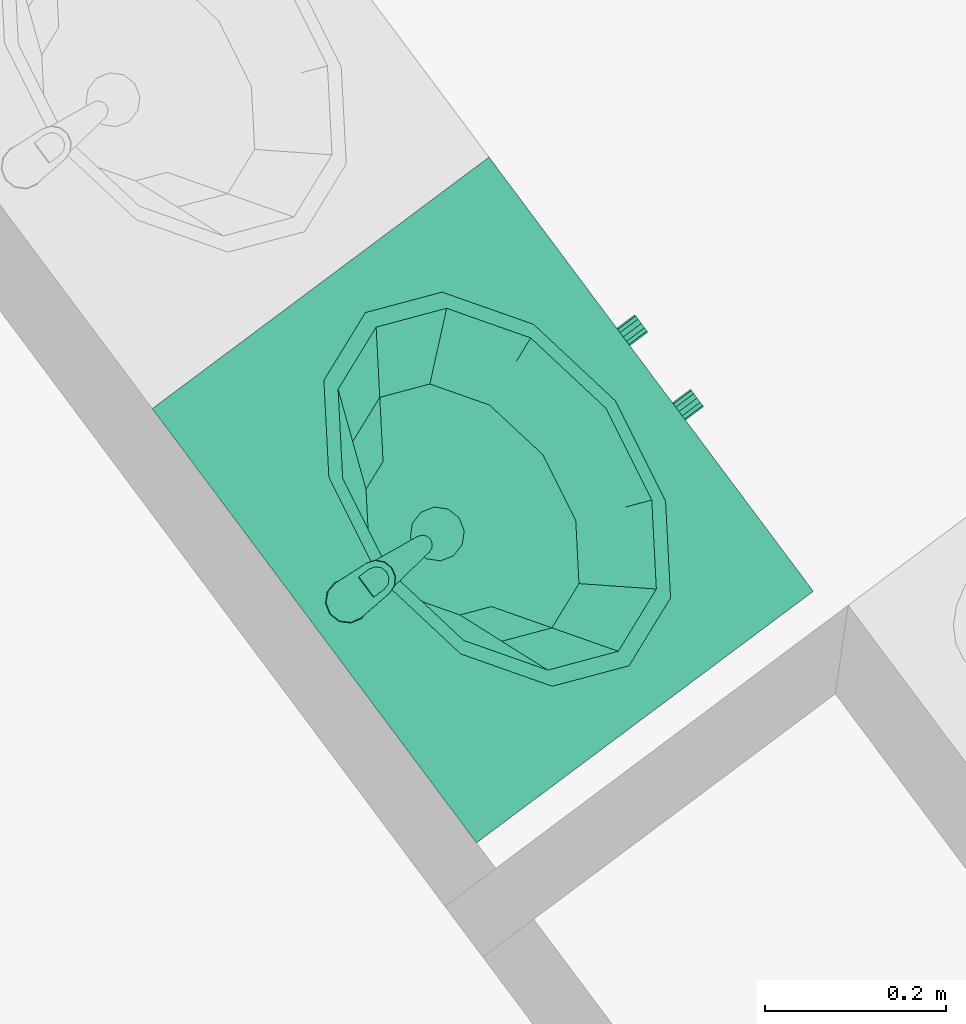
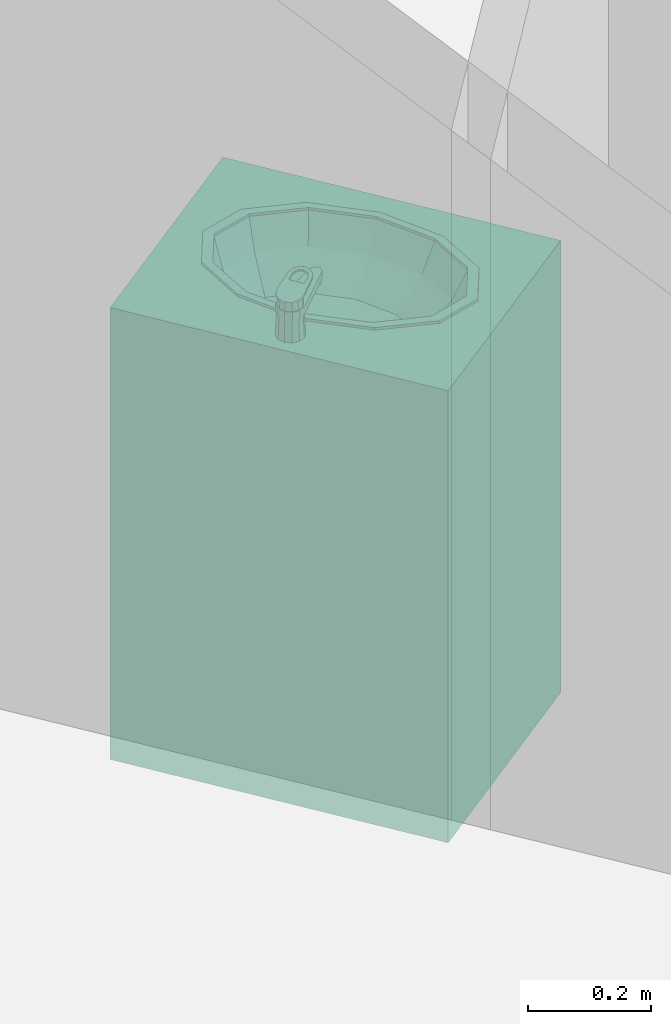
# One storey, part 85 of 121: 1 distribution element.
"""IFC2X3 building model written with IfcOpenShell, lengths in metres."""

from ifc_helpers import new_model, entity, si_unit, converted_unit, derived_unit, money_unit, direction, frame, origin_with_axes, place, context, subcontext, project, spatial, open_shell, faceted_brep, surface_model, source, transform, mapped, type_object, element, save


model = new_model("IFC2X3")

# Units and contexts
model_context = context("Model", 3, precision=1e-05, world=origin_with_axes(), true_north=direction((0.0, 1.0)))
body_context = subcontext(model_context, "Body", "Model", "MODEL_VIEW")
ifc_project = project(units=[si_unit("LENGTHUNIT", "METRE"), si_unit("AREAUNIT", "SQUARE_METRE"), si_unit("VOLUMEUNIT", "CUBIC_METRE"), converted_unit("PLANEANGLEUNIT", "DEGREE", entity("IfcPlaneAngleMeasure", 0.0174532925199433), si_unit("PLANEANGLEUNIT", "RADIAN"), dimensions=[0, 0, 0, 0, 0, 0, 0]), money_unit("CHF"), converted_unit("TIMEUNIT", "Year", entity("IfcTimeMeasure", 31557600.0), si_unit("TIMEUNIT", "SECOND"), dimensions=[0, 0, 1, 0, 0, 0, 0]), si_unit("MASSUNIT", "GRAM", prefix="KILO"), si_unit("THERMODYNAMICTEMPERATUREUNIT", "DEGREE_CELSIUS"), si_unit("LUMINOUSINTENSITYUNIT", "LUMEN"), si_unit("ENERGYUNIT", "JOULE", prefix="MEGA"), derived_unit("THERMALCONDUCTANCEUNIT", [(si_unit("POWERUNIT", "WATT"), 1), (si_unit("LENGTHUNIT", "METRE"), -1), (si_unit("THERMODYNAMICTEMPERATUREUNIT", "KELVIN"), -1)]), derived_unit("SPECIFICHEATCAPACITYUNIT", [(si_unit("ENERGYUNIT", "JOULE"), 1), (si_unit("MASSUNIT", "GRAM", prefix="KILO"), -1), (si_unit("THERMODYNAMICTEMPERATUREUNIT", "KELVIN"), -1)]), derived_unit("MASSDENSITYUNIT", [(si_unit("MASSUNIT", "GRAM", prefix="KILO"), 1), (si_unit("VOLUMEUNIT", "CUBIC_METRE"), -1)])], contexts=[model_context])

# Site, building, storey
site_placement = place(None, origin_with_axes())
site = spatial("IfcSite", under=ifc_project, at=site_placement, Name="Site", CompositionType="ELEMENT")
building_placement = place(site_placement, origin_with_axes())
building = spatial("IfcBuilding", under=site, at=building_placement, Name="Bâtiment", CompositionType="ELEMENT")
storey_placement = place(building_placement, frame((0.0, 0.0, 2.75), z_axis=(0.0, 0.0, 1.0), x_axis=(1.0, 0.0, 0.0)))
storey = spatial("IfcBuildingStorey", under=building, at=storey_placement, Name="Etage 1", CompositionType="ELEMENT", Elevation=2.75)

# Distribution element
distribution_element_type = type_object("IfcDistributionElementType", Name="Lavabo sur meuble 27")
shared_shape = source(origin_with_axes(), body_context, "Body", "SurfaceModel", [
    faceted_brep([(0.0, 0.0, 0.0), (0.0, 0.0, 0.1), (-0.6, 0.0, 0.1), (-0.6, 0.0, 0.0), (0.0, 0.4653441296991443, 0.0), (0.0, 0.4653441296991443, 0.1), (-0.6, 0.4653441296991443, 0.1), (-0.6, 0.4653441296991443, 0.0)], [[[0, 1, 2, 3]], [[4, 5, 1, 0]], [[1, 5, 6, 2]], [[3, 2, 6, 7]], [[0, 3, 7, 4]], [[7, 6, 5, 4]]]),
    faceted_brep([(0.0, 0.0, 0.1), (0.0, 0.0, 0.12), (-0.02, 0.0, 0.12), (-0.02, 0.0, 0.1), (0.0, 0.4653441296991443, 0.1), (0.0, 0.4653441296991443, 0.12), (-0.02, 0.4653441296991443, 0.12), (-0.58, 0.4653441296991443, 0.12), (-0.6, 0.4653441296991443, 0.12), (-0.6, 0.0, 0.12), (-0.58, 0.0, 0.12), (-0.58, 0.0, 0.1), (-0.6, 0.0, 0.1), (-0.6, 0.4653441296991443, 0.1), (-0.58, 0.4653441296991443, 0.1), (-0.02, 0.4653441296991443, 0.1)], [[[0, 1, 2, 3]], [[4, 5, 1, 0]], [[1, 5, 6, 7, 8, 9, 10, 2]], [[3, 2, 10, 11]], [[0, 3, 11, 12, 13, 14, 15, 4]], [[15, 6, 5, 4]], [[14, 7, 6, 15]], [[13, 8, 7, 14]], [[12, 9, 8, 13]], [[11, 10, 9, 12]]]),
    faceted_brep([(0.0, 0.0, 0.12), (0.0, 0.0, 0.85), (-0.02, 0.0, 0.85), (-0.02, 0.0, 0.12), (0.0, 0.4653441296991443, 0.12), (0.0, 0.4653441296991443, 0.85), (-0.6, 0.4653441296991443, 0.85), (-0.6, 0.0, 0.85), (-0.58, 0.0, 0.85), (-0.58, 0.4453441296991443, 0.85), (-0.02, 0.4453441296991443, 0.85), (-0.02, 0.4453441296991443, 0.12), (-0.58, 0.4453441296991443, 0.12), (-0.58, 0.0, 0.12), (-0.6, 0.0, 0.12), (-0.6, 0.4653441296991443, 0.12)], [[[0, 1, 2, 3]], [[4, 5, 1, 0]], [[1, 5, 6, 7, 8, 9, 10, 2]], [[3, 2, 10, 11]], [[0, 3, 11, 12, 13, 14, 15, 4]], [[15, 6, 5, 4]], [[14, 7, 6, 15]], [[13, 8, 7, 14]], [[12, 9, 8, 13]], [[11, 10, 9, 12]]]),
    faceted_brep([(-0.58, 0.0, 0.3233333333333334), (-0.58, 0.0, 0.3433333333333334), (-0.58, 0.4453441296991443, 0.3433333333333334), (-0.58, 0.4453441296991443, 0.3233333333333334), (-0.02, 0.0, 0.3233333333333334), (-0.02, 0.0, 0.3433333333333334), (-0.02, 0.4453441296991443, 0.3433333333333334), (-0.02, 0.4453441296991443, 0.3233333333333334)], [[[0, 1, 2, 3]], [[4, 5, 1, 0]], [[1, 5, 6, 2]], [[3, 2, 6, 7]], [[0, 3, 7, 4]], [[7, 6, 5, 4]]]),
    faceted_brep([(-0.58, 0.0, 0.5666666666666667), (-0.58, 0.0, 0.5866666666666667), (-0.58, 0.4453441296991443, 0.5866666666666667), (-0.58, 0.4453441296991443, 0.5666666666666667), (-0.02, 0.0, 0.5666666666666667), (-0.02, 0.0, 0.5866666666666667), (-0.02, 0.4453441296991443, 0.5866666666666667), (-0.02, 0.4453441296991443, 0.5666666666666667)], [[[0, 1, 2, 3]], [[4, 5, 1, 0]], [[1, 5, 6, 2]], [[3, 2, 6, 7]], [[0, 3, 7, 4]], [[7, 6, 5, 4]]]),
    faceted_brep([(0.0, 0.4653441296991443, 0.85), (0.0, 0.0, 0.85), (-0.6, 0.0, 0.85), (-0.6, 0.4653441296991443, 0.85), (-0.4124999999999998, 0.08276825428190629, 0.85), (-0.3, 0.06267206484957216, 0.85), (-0.1874999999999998, 0.08276825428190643, 0.85), (-0.1051442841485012, 0.1376720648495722, 0.85), (-0.07499999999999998, 0.2126720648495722, 0.85), (-0.1051442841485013, 0.2876720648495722, 0.85), (-0.1875000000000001, 0.342575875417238, 0.85), (-0.3, 0.3626720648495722, 0.85), (-0.4125, 0.3425758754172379, 0.85), (-0.4948557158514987, 0.2876720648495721, 0.85), (-0.525, 0.2126720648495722, 0.85), (-0.4948557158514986, 0.137672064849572, 0.85), (0.0, 0.4653441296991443, 0.9), (0.0, 0.0, 0.9), (-0.6, 0.0, 0.9), (-0.6, 0.4653441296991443, 0.9), (-0.3, 0.06267206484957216, 0.9), (-0.4124999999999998, 0.08276825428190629, 0.9), (-0.1874999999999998, 0.08276825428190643, 0.9), (-0.1051442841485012, 0.1376720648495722, 0.9), (-0.07499999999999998, 0.2126720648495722, 0.9), (-0.1051442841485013, 0.2876720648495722, 0.9), (-0.1875000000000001, 0.342575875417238, 0.9), (-0.3, 0.3626720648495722, 0.9), (-0.4125, 0.3425758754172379, 0.9), (-0.4948557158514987, 0.2876720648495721, 0.9), (-0.525, 0.2126720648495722, 0.9), (-0.4948557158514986, 0.137672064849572, 0.9)], [[[0, 1, 2, 3], [4, 5, 6, 7, 8, 9, 10, 11, 12, 13, 14, 15]], [[1, 0, 16, 17]], [[2, 1, 17, 18]], [[3, 2, 18, 19]], [[0, 3, 19, 16]], [[20, 5, 4, 21]], [[22, 6, 5, 20]], [[23, 7, 6, 22]], [[24, 8, 7, 23]], [[25, 9, 8, 24]], [[26, 10, 9, 25]], [[27, 11, 10, 26]], [[28, 12, 11, 27]], [[29, 13, 12, 28]], [[30, 14, 13, 29]], [[31, 15, 14, 30]], [[21, 4, 15, 31]], [[18, 17, 16, 19], [28, 27, 26, 25, 24, 23, 22, 20, 21, 31, 30, 29]]]),
    faceted_brep([(-0.544, 0.2126720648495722, 0.905), (-0.511310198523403, 0.2943684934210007, 0.905), (-0.511310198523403, 0.2943684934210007, 0.9), (-0.544, 0.2126720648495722, 0.9), (-0.5113101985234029, 0.1309756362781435, 0.905), (-0.4219999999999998, 0.07116969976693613, 0.905), (-0.3, 0.04927920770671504, 0.905), (-0.1779999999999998, 0.07116969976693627, 0.905), (-0.08868980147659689, 0.1309756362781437, 0.905), (-0.05599999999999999, 0.2126720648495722, 0.905), (-0.088689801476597, 0.2943684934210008, 0.905), (-0.178, 0.3541744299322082, 0.905), (-0.3, 0.3760649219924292, 0.905), (-0.422, 0.3541744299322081, 0.905), (-0.524, 0.2126720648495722, 0.905), (-0.4939896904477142, 0.2876720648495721, 0.905), (-0.412, 0.3425758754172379, 0.905), (-0.3, 0.3626720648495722, 0.905), (-0.1880000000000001, 0.342575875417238, 0.905), (-0.1060103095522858, 0.2876720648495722, 0.905), (-0.07599999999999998, 0.2126720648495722, 0.905), (-0.1060103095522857, 0.1376720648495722, 0.905), (-0.1879999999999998, 0.08276825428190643, 0.905), (-0.3, 0.06267206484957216, 0.905), (-0.4119999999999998, 0.08276825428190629, 0.905), (-0.4939896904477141, 0.137672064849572, 0.905), (-0.422, 0.3541744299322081, 0.9), (-0.3, 0.3760649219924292, 0.9), (-0.178, 0.3541744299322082, 0.9), (-0.088689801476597, 0.2943684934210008, 0.9), (-0.05599999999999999, 0.2126720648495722, 0.9), (-0.08868980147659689, 0.1309756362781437, 0.9), (-0.1779999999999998, 0.07116969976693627, 0.9), (-0.3, 0.04927920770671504, 0.9), (-0.4219999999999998, 0.07116969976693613, 0.9), (-0.5113101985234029, 0.1309756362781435, 0.9), (-0.524, 0.2126720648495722, 0.9), (-0.4939896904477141, 0.137672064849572, 0.9), (-0.4119999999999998, 0.08276825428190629, 0.9), (-0.3, 0.06267206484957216, 0.9), (-0.1879999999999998, 0.08276825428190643, 0.9), (-0.1060103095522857, 0.1376720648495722, 0.9), (-0.07599999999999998, 0.2126720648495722, 0.9), (-0.1060103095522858, 0.2876720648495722, 0.9), (-0.1880000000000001, 0.342575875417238, 0.9), (-0.3, 0.3626720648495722, 0.9), (-0.412, 0.3425758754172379, 0.9), (-0.4939896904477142, 0.2876720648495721, 0.9)], [[[0, 1, 2, 3]], [[0, 4, 5, 6, 7, 8, 9, 10, 11, 12, 13, 1], [14, 15, 16, 17, 18, 19, 20, 21, 22, 23, 24, 25]], [[1, 13, 26, 2]], [[3, 2, 26, 27, 28, 29, 30, 31, 32, 33, 34, 35], [36, 37, 38, 39, 40, 41, 42, 43, 44, 45, 46, 47]], [[4, 0, 3, 35]], [[5, 4, 35, 34]], [[6, 5, 34, 33]], [[7, 6, 33, 32]], [[8, 7, 32, 31]], [[9, 8, 31, 30]], [[10, 9, 30, 29]], [[11, 10, 29, 28]], [[12, 11, 28, 27]], [[13, 12, 27, 26]], [[15, 14, 36, 47]], [[16, 15, 47, 46]], [[17, 16, 46, 45]], [[18, 17, 45, 44]], [[19, 18, 44, 43]], [[20, 19, 43, 42]], [[21, 20, 42, 41]], [[22, 21, 41, 40]], [[23, 22, 40, 39]], [[24, 23, 39, 38]], [[25, 24, 38, 37]], [[14, 25, 37, 36]]]),
    surface_model("IfcShellBasedSurfaceModel", [(-0.3, 0.3626720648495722, 0.9), (-0.412, 0.342575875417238, 0.9), (-0.4008, 0.3445854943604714, 0.848), (-0.3, 0.3626720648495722, 0.848), (-0.4939896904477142, 0.2876720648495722, 0.9), (-0.4745907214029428, 0.2951720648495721, 0.848), (-0.1879999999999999, 0.3425758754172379, 0.9), (-0.1991999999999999, 0.3445854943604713, 0.848), (-0.524, 0.2126720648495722, 0.9), (-0.5016, 0.2276720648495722, 0.848), (-0.1060103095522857, 0.2876720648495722, 0.9), (-0.1254092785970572, 0.2951720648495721, 0.848), (-0.4939896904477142, 0.1376720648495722, 0.9), (-0.4745907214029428, 0.1601720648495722, 0.848), (-0.07599999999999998, 0.2126720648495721, 0.9), (-0.09839999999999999, 0.2276720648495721, 0.848), (-0.412, 0.08276825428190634, 0.9), (-0.4008, 0.1107586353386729, 0.848), (-0.1060103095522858, 0.1376720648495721, 0.9), (-0.1254092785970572, 0.1601720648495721, 0.848), (-0.3, 0.06267206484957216, 0.9), (-0.3, 0.09267206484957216, 0.848), (-0.1879999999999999, 0.08276825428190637, 0.9), (-0.1992, 0.110758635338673, 0.848)], [open_shell([[[0, 1, 2, 3]], [[1, 4, 5, 2]], [[6, 0, 3, 7]], [[4, 8, 9, 5]], [[10, 6, 7, 11]], [[8, 12, 13, 9]], [[14, 10, 11, 15]], [[12, 16, 17, 13]], [[18, 14, 15, 19]], [[16, 20, 21, 17]], [[22, 18, 19, 23]], [[20, 22, 23, 21]]])]),
    surface_model("IfcShellBasedSurfaceModel", [(-0.3, 0.3626720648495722, 0.848), (-0.4008, 0.3445854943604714, 0.848), (-0.379632, 0.3483836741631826, 0.7959999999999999), (-0.3, 0.3626720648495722, 0.7959999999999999), (-0.4745907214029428, 0.2951720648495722, 0.848), (-0.4379266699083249, 0.3093470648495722, 0.7959999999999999), (-0.1991999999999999, 0.3445854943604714, 0.848), (-0.2203679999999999, 0.3483836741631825, 0.7959999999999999), (-0.5016, 0.2276720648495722, 0.848), (-0.459264, 0.2560220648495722, 0.7959999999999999), (-0.1254092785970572, 0.2951720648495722, 0.848), (-0.1620733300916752, 0.3093470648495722, 0.7959999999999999), (-0.4745907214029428, 0.1601720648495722, 0.848), (-0.4379266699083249, 0.2026970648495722, 0.7959999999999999), (-0.09839999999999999, 0.2276720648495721, 0.848), (-0.140736, 0.2560220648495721, 0.7959999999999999), (-0.4008, 0.1107586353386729, 0.848), (-0.379632, 0.1636604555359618, 0.7959999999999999), (-0.1254092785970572, 0.1601720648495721, 0.848), (-0.1620733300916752, 0.2026970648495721, 0.7959999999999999), (-0.3, 0.09267206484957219, 0.848), (-0.3, 0.1493720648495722, 0.7959999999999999), (-0.1992, 0.110758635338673, 0.848), (-0.220368, 0.1636604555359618, 0.7959999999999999)], [open_shell([[[0, 1, 2, 3]], [[1, 4, 5, 2]], [[6, 0, 3, 7]], [[4, 8, 9, 5]], [[10, 6, 7, 11]], [[8, 12, 13, 9]], [[14, 10, 11, 15]], [[12, 16, 17, 13]], [[18, 14, 15, 19]], [[16, 20, 21, 17]], [[22, 18, 19, 23]], [[20, 22, 23, 21]]])]),
    surface_model("IfcShellBasedSurfaceModel", [(-0.3, 0.3626720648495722, 0.7959999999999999), (-0.379632, 0.3483836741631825, 0.7959999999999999), (-0.35016816, 0.3536703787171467, 0.7699999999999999), (-0.3, 0.3626720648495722, 0.7699999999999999), (-0.4379266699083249, 0.3093470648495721, 0.7959999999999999), (-0.3868938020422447, 0.3290773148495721, 0.7699999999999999), (-0.2203679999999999, 0.3483836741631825, 0.7959999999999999), (-0.2498318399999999, 0.3536703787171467, 0.7699999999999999), (-0.459264, 0.2560220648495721, 0.7959999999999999), (-0.40033632, 0.2954825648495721, 0.7699999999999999), (-0.1620733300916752, 0.3093470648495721, 0.7959999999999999), (-0.2131061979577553, 0.3290773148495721, 0.7699999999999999), (-0.4379266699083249, 0.2026970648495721, 0.7959999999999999), (-0.3868938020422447, 0.2618878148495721, 0.7699999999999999), (-0.140736, 0.2560220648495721, 0.7959999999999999), (-0.19966368, 0.2954825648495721, 0.7699999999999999), (-0.379632, 0.1636604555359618, 0.7959999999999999), (-0.35016816, 0.2372947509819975, 0.7699999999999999), (-0.1620733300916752, 0.2026970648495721, 0.7959999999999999), (-0.2131061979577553, 0.2618878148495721, 0.7699999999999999), (-0.3, 0.1493720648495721, 0.7959999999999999), (-0.3, 0.2282930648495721, 0.7699999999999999), (-0.220368, 0.1636604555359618, 0.7959999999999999), (-0.24983184, 0.2372947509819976, 0.7699999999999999)], [open_shell([[[0, 1, 2, 3]], [[1, 4, 5, 2]], [[6, 0, 3, 7]], [[4, 8, 9, 5]], [[10, 6, 7, 11]], [[8, 12, 13, 9]], [[14, 10, 11, 15]], [[12, 16, 17, 13]], [[18, 14, 15, 19]], [[16, 20, 21, 17]], [[22, 18, 19, 23]], [[20, 22, 23, 21]]])]),
    surface_model("IfcShellBasedSurfaceModel", [(-0.3, 0.3626720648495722, 0.7699999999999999), (-0.35016816, 0.3536703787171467, 0.7699999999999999), (-0.315, 0.3214633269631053, 0.7629999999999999), (-0.3259807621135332, 0.3104825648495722, 0.7629999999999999), (-0.3, 0.3254825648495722, 0.7629999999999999), (-0.3868938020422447, 0.3290773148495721, 0.7699999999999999), (-0.2498318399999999, 0.3536703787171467, 0.7699999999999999), (-0.33, 0.2954825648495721, 0.7629999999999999), (-0.285, 0.3214633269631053, 0.7629999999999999), (-0.40033632, 0.2954825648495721, 0.7699999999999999), (-0.2131061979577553, 0.3290773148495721, 0.7699999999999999), (-0.3259807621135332, 0.2804825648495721, 0.7629999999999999), (-0.2740192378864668, 0.3104825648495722, 0.7629999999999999), (-0.3868938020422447, 0.2618878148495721, 0.7699999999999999), (-0.19966368, 0.2954825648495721, 0.7699999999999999), (-0.315, 0.269501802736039, 0.7629999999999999), (-0.27, 0.2954825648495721, 0.7629999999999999), (-0.35016816, 0.2372947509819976, 0.7699999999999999), (-0.2131061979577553, 0.2618878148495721, 0.7699999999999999), (-0.3, 0.2654825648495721, 0.7629999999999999), (-0.2740192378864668, 0.2804825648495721, 0.7629999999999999), (-0.3, 0.2282930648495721, 0.7699999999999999), (-0.24983184, 0.2372947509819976, 0.7699999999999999), (-0.285, 0.269501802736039, 0.7629999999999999)], [open_shell([[[0, 1, 2]], [[1, 3, 2]], [[0, 2, 4]], [[1, 5, 3]], [[6, 0, 4]], [[5, 7, 3]], [[6, 4, 8]], [[5, 9, 7]], [[10, 6, 8]], [[9, 11, 7]], [[10, 8, 12]], [[9, 13, 11]], [[14, 10, 12]], [[13, 15, 11]], [[14, 12, 16]], [[13, 17, 15]], [[18, 14, 16]], [[17, 19, 15]], [[18, 16, 20]], [[17, 21, 19]], [[22, 18, 20]], [[21, 23, 19]], [[22, 20, 23]], [[21, 22, 23]]])]),
    surface_model("IfcShellBasedSurfaceModel", [(-0.33, 0.2954825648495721, 0.763), (-0.3259807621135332, 0.3104825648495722, 0.763), (-0.3259807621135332, 0.3104825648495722, 0.758), (-0.33, 0.2954825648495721, 0.758), (-0.315, 0.3214633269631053, 0.763), (-0.315, 0.3214633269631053, 0.758), (-0.3, 0.3254825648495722, 0.758), (-0.285, 0.3214633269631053, 0.758), (-0.2740192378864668, 0.3104825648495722, 0.758), (-0.27, 0.2954825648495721, 0.758), (-0.2740192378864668, 0.2804825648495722, 0.758), (-0.285, 0.269501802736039, 0.758), (-0.3, 0.2654825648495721, 0.758), (-0.3149999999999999, 0.269501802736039, 0.758), (-0.3259807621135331, 0.2804825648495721, 0.758), (-0.3259807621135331, 0.2804825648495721, 0.763), (-0.3, 0.3254825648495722, 0.763), (-0.285, 0.3214633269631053, 0.763), (-0.2740192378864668, 0.3104825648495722, 0.763), (-0.27, 0.2954825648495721, 0.763), (-0.2740192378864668, 0.2804825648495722, 0.763), (-0.285, 0.269501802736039, 0.763), (-0.3, 0.2654825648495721, 0.763), (-0.3149999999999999, 0.269501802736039, 0.763)], [open_shell([[[0, 1, 2, 3]], [[1, 4, 5, 2]], [[3, 2, 5, 6, 7, 8, 9, 10, 11, 12, 13, 14]], [[15, 0, 3, 14]], [[4, 16, 6, 5]], [[16, 17, 7, 6]], [[17, 18, 8, 7]], [[18, 19, 9, 8]], [[19, 20, 10, 9]], [[20, 21, 11, 10]], [[21, 22, 12, 11]], [[22, 23, 13, 12]], [[23, 15, 14, 13]]])]),
    faceted_brep([(-0.3125, 0.4406587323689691, 0.9), (-0.310587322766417, 0.4373458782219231, 0.976507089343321), (-0.3, 0.4402100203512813, 0.9759615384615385), (-0.3, 0.4440080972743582, 0.9), (-0.3216506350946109, 0.4315080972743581, 0.9), (-0.3182735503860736, 0.4295583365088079, 0.9779904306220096), (-0.321, 0.4190080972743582, 0.98), (-0.3181003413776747, 0.4085578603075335, 0.9819905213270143), (-0.3104141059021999, 0.400970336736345, 0.9834357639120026), (-0.3, 0.3982062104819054, 0.9839622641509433), (-0.2895858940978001, 0.400970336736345, 0.9834357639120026), (-0.2818996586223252, 0.4085578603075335, 0.9819905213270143), (-0.279, 0.4190080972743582, 0.98), (-0.2817264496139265, 0.4295583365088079, 0.9779904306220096), (-0.289412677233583, 0.4373458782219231, 0.976507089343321), (-0.2875, 0.4406587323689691, 0.9), (-0.278349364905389, 0.4315080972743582, 0.9), (-0.275, 0.4190080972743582, 0.9), (-0.278349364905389, 0.4065080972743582, 0.9), (-0.2875, 0.3973574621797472, 0.9), (-0.3, 0.3940080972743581, 0.9), (-0.3125, 0.3973574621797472, 0.9), (-0.3216506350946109, 0.4065080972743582, 0.9), (-0.325, 0.4190080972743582, 0.9)], [[[0, 1, 2, 3]], [[4, 5, 1, 0]], [[1, 5, 6, 7, 8, 9, 10, 11, 12, 13, 14, 2]], [[3, 2, 14, 15]], [[0, 3, 15, 16, 17, 18, 19, 20, 21, 22, 23, 4]], [[23, 6, 5, 4]], [[22, 7, 6, 23]], [[21, 8, 7, 22]], [[20, 9, 8, 21]], [[19, 10, 9, 20]], [[18, 11, 10, 19]], [[17, 12, 11, 18]], [[16, 13, 12, 17]], [[15, 14, 13, 16]]]),
    faceted_brep([(-0.309, 0.3160080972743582, 0.935), (-0.309, 0.3160080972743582, 0.9450000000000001), (-0.3077942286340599, 0.3205080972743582, 0.9450000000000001), (-0.3077942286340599, 0.3205080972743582, 0.935), (-0.3077942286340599, 0.3115080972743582, 0.935), (-0.3077942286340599, 0.3115080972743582, 0.9450000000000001), (-0.3045, 0.3082138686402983, 0.9450000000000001), (-0.3, 0.3070080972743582, 0.9450000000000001), (-0.2955, 0.3082138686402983, 0.9450000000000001), (-0.2922057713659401, 0.3115080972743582, 0.9450000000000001), (-0.291, 0.3160080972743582, 0.9450000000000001), (-0.2922057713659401, 0.3205080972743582, 0.9450000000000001), (-0.2955, 0.3238023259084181, 0.9450000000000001), (-0.3, 0.3250080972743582, 0.9450000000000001), (-0.3045, 0.3238023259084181, 0.9450000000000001), (-0.3045, 0.3238023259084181, 0.935), (-0.3, 0.3250080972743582, 0.935), (-0.2955, 0.3238023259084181, 0.935), (-0.2922057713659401, 0.3205080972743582, 0.935), (-0.291, 0.3160080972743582, 0.935), (-0.2922057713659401, 0.3115080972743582, 0.935), (-0.2955, 0.3082138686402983, 0.935), (-0.3, 0.3070080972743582, 0.935), (-0.3045, 0.3082138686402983, 0.935)], [[[0, 1, 2, 3]], [[4, 5, 1, 0]], [[1, 5, 6, 7, 8, 9, 10, 11, 12, 13, 14, 2]], [[3, 2, 14, 15]], [[0, 3, 15, 16, 17, 18, 19, 20, 21, 22, 23, 4]], [[23, 6, 5, 4]], [[22, 7, 6, 23]], [[21, 8, 7, 22]], [[20, 9, 8, 21]], [[19, 10, 9, 20]], [[18, 11, 10, 19]], [[17, 12, 11, 18]], [[16, 13, 12, 17]], [[15, 14, 13, 16]]]),
    faceted_brep([(-0.2871282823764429, 0.439264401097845, 0.9600000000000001), (-0.300000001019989, 0.44300807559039, 0.9600000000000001), (-0.3128717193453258, 0.4392644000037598, 0.9600000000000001), (-0.3217278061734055, 0.4292013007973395, 0.9600000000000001), (-0.3238053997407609, 0.4159581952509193, 0.9600000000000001), (-0.310912, 0.3146197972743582, 0.9600000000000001), (-0.309028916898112, 0.3097249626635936, 0.9600000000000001), (-0.3050933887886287, 0.3062584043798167, 0.9600000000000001), (-0.300000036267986, 0.305008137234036, 0.9600000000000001), (-0.2949066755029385, 0.3062583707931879, 0.9600000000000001), (-0.2909711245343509, 0.3097249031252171, 0.9600000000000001), (-0.2890880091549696, 0.3146197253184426, 0.9600000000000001), (-0.2761946, 0.4159581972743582, 0.9600000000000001), (-0.2782721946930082, 0.4292013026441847, 0.9600000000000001), (-0.311, 0.4380606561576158, 0.9600000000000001), (-0.3, 0.4410080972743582, 0.9600000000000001), (-0.289, 0.4380606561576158, 0.9600000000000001), (-0.2809474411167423, 0.4300080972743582, 0.9600000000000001), (-0.278, 0.4190080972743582, 0.9600000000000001), (-0.2809474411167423, 0.4080080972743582, 0.9600000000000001), (-0.289, 0.3999555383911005, 0.9600000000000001), (-0.3, 0.3970080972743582, 0.9600000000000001), (-0.3109999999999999, 0.3999555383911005, 0.9600000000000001), (-0.3190525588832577, 0.4080080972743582, 0.9600000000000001), (-0.322, 0.4190080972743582, 0.9600000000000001), (-0.3190525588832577, 0.4300080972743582, 0.9600000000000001), (-0.2871282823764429, 0.439264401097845, 0.9450000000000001), (-0.300000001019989, 0.44300807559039, 0.9450000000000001), (-0.3128717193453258, 0.4392644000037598, 0.9450000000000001), (-0.3217278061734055, 0.4292013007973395, 0.9450000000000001), (-0.3238053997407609, 0.4159581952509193, 0.9450000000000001), (-0.310912, 0.3146197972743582, 0.9450000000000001), (-0.309028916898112, 0.3097249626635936, 0.9450000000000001), (-0.3050933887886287, 0.3062584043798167, 0.9450000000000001), (-0.300000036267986, 0.305008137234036, 0.9450000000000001), (-0.2949066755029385, 0.3062583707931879, 0.9450000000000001), (-0.2909711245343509, 0.3097249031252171, 0.9450000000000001), (-0.2890880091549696, 0.3146197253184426, 0.9450000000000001), (-0.2761946, 0.4159581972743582, 0.9450000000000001), (-0.2782721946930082, 0.4292013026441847, 0.9450000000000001), (-0.3, 0.4417580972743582, 0.9450000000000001), (-0.311375, 0.4387101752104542, 0.9450000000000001), (-0.288625, 0.4387101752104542, 0.9450000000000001), (-0.280297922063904, 0.4303830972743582, 0.9450000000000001), (-0.2772499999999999, 0.4190080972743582, 0.9450000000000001), (-0.280297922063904, 0.4076330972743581, 0.9450000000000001), (-0.288625, 0.3993060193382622, 0.9450000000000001), (-0.3, 0.3962580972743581, 0.9450000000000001), (-0.311375, 0.3993060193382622, 0.9450000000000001), (-0.319702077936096, 0.4076330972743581, 0.9450000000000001), (-0.32275, 0.4190080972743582, 0.9450000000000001), (-0.319702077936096, 0.4303830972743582, 0.9450000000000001)], [[[0, 1, 2, 3, 4, 5, 6, 7, 8, 9, 10, 11, 12, 13], [14, 15, 16, 17, 18, 19, 20, 21, 22, 23, 24, 25]], [[26, 27, 1, 0]], [[27, 28, 2, 1]], [[28, 29, 3, 2]], [[29, 30, 4, 3]], [[30, 31, 5, 4]], [[31, 32, 6, 5]], [[32, 33, 7, 6]], [[33, 34, 8, 7]], [[34, 35, 9, 8]], [[35, 36, 10, 9]], [[36, 37, 11, 10]], [[37, 38, 12, 11]], [[38, 39, 13, 12]], [[39, 26, 0, 13]], [[40, 15, 14, 41]], [[42, 16, 15, 40]], [[16, 42, 43, 17]], [[17, 43, 44, 18]], [[18, 44, 45, 19]], [[19, 45, 46, 20]], [[20, 46, 47, 21]], [[48, 22, 21, 47]], [[49, 23, 22, 48]], [[50, 24, 23, 49]], [[51, 25, 24, 50]], [[41, 14, 25, 51]], [[34, 33, 32, 31, 30, 29, 28, 27, 26, 39, 38, 37, 36, 35], [48, 47, 46, 45, 44, 43, 42, 40, 41, 51, 50, 49]]]),
    faceted_brep([(-0.323893, 0.4173155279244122, 0.9803223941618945), (-0.323893, 0.4180639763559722, 0.9842517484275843), (-0.3212964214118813, 0.4305312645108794, 0.9818770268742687), (-0.3212964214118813, 0.4297828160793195, 0.9779476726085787), (-0.3209459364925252, 0.377171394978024, 0.9879688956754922), (-0.3209459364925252, 0.377919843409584, 0.9918982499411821), (-0.317663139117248, 0.3682421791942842, 0.9937416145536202), (-0.3100614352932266, 0.3612927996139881, 0.995065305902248), (-0.2999995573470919, 0.3587709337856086, 0.9955456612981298), (-0.289937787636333, 0.3612932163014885, 0.9950652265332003), (-0.2823363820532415, 0.3682429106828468, 0.9937414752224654), (-0.279054, 0.3779207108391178, 0.991898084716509), (-0.2761069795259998, 0.4180642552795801, 0.9842516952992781), (-0.2787037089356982, 0.4305315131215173, 0.9818769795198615), (-0.2875283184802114, 0.4398477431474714, 0.9801024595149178), (-0.3000001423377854, 0.4432885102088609, 0.9794470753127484), (-0.3124719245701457, 0.4398475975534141, 0.9801024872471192), (-0.314, 0.3942157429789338, 0.9887942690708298), (-0.286, 0.3942157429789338, 0.9887942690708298), (-0.286, 0.3794001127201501, 0.9916162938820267), (-0.2878756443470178, 0.3725237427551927, 0.9929260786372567), (-0.293, 0.3674898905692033, 0.9938849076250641), (-0.3, 0.3656473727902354, 0.9942358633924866), (-0.307, 0.3674898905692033, 0.9938849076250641), (-0.3121243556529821, 0.3725237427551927, 0.9929260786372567), (-0.314, 0.3794001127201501, 0.9916162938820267), (-0.3124719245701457, 0.4390991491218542, 0.9761731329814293), (-0.3000001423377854, 0.4425400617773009, 0.9755177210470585), (-0.2875283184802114, 0.4390992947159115, 0.976173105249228), (-0.2787037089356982, 0.4297830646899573, 0.9779476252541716), (-0.2761069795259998, 0.4173158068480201, 0.9803223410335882), (-0.279054, 0.3771722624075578, 0.9879687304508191), (-0.2823363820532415, 0.3674944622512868, 0.9898121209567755), (-0.289937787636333, 0.3605447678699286, 0.9911358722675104), (-0.2999995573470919, 0.3580224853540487, 0.9916163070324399), (-0.3100614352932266, 0.3605443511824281, 0.9911359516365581), (-0.317663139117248, 0.3674937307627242, 0.9898122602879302), (-0.314, 0.3934672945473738, 0.9848649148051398), (-0.314, 0.37865166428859, 0.9876869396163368), (-0.3121243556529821, 0.3717752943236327, 0.9889967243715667), (-0.307, 0.3667414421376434, 0.9899555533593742), (-0.3, 0.3648989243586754, 0.9903065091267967), (-0.293, 0.3667414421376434, 0.9899555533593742), (-0.2878756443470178, 0.3717752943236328, 0.9889967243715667), (-0.286, 0.37865166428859, 0.9876869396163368), (-0.286, 0.3934672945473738, 0.9848649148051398)], [[[0, 1, 2, 3]], [[4, 5, 1, 0]], [[1, 5, 6, 7, 8, 9, 10, 11, 12, 13, 14, 15, 16, 2], [17, 18, 19, 20, 21, 22, 23, 24, 25]], [[3, 2, 16, 26]], [[0, 3, 26, 27, 28, 29, 30, 31, 32, 33, 34, 35, 36, 4], [37, 38, 39, 40, 41, 42, 43, 44, 45]], [[36, 6, 5, 4]], [[35, 7, 6, 36]], [[34, 8, 7, 35]], [[33, 9, 8, 34]], [[32, 10, 9, 33]], [[31, 11, 10, 32]], [[30, 12, 11, 31]], [[29, 13, 12, 30]], [[28, 14, 13, 29]], [[27, 15, 14, 28]], [[26, 16, 15, 27]], [[45, 18, 17, 37]], [[44, 19, 18, 45]], [[43, 20, 19, 44]], [[42, 21, 20, 43]], [[41, 22, 21, 42]], [[40, 23, 22, 41]], [[39, 24, 23, 40]], [[38, 25, 24, 39]], [[37, 17, 25, 38]]]),
    surface_model("IfcShellBasedSurfaceModel", [(-0.001500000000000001, 0.0, 0.1015), (-0.2985, 0.0, 0.1015), (-0.2985, 0.0, 0.8485), (-0.001500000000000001, 0.0, 0.8485)], [open_shell([[[0, 1, 2, 3]]])]),
    faceted_brep([(-0.2588923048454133, 0.0, 0.7855), (-0.2605, 0.0, 0.7915), (-0.2588923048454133, 0.0, 0.7975), (-0.2545, 0.0, 0.8018923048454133), (-0.2485, 0.0, 0.8035), (-0.2425, 0.0, 0.8018923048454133), (-0.2381076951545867, 0.0, 0.7975), (-0.2365, 0.0, 0.7915), (-0.2381076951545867, 0.0, 0.7855), (-0.2425, 0.0, 0.7811076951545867), (-0.2485, 0.0, 0.7795), (-0.2545, 0.0, 0.7811076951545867), (-0.2588923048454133, -0.025, 0.7855), (-0.2605, -0.025, 0.7915), (-0.2588923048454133, -0.025, 0.7975), (-0.2545, -0.025, 0.8018923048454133), (-0.2485, -0.025, 0.8035), (-0.2425, -0.025, 0.8018923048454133), (-0.2381076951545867, -0.025, 0.7975), (-0.2365, -0.025, 0.7915), (-0.2381076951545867, -0.025, 0.7855), (-0.2425, -0.025, 0.7811076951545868), (-0.2485, -0.025, 0.7795), (-0.2545, -0.025, 0.7811076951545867)], [[[0, 1, 2, 3, 4, 5, 6, 7, 8, 9, 10, 11]], [[0, 12, 13, 1]], [[1, 13, 14, 2]], [[2, 14, 15, 3]], [[3, 15, 16, 4]], [[4, 16, 17, 5]], [[5, 17, 18, 6]], [[6, 18, 19, 7]], [[7, 19, 20, 8]], [[8, 20, 21, 9]], [[9, 21, 22, 10]], [[10, 22, 23, 11]], [[11, 23, 12, 0]], [[12, 23, 22, 21, 20, 19, 18, 17, 16, 15, 14, 13]]]),
    surface_model("IfcShellBasedSurfaceModel", [(-0.5985, 0.0, 0.1015), (-0.5985, 0.0, 0.8485), (-0.3015000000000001, 0.0, 0.8485), (-0.3015000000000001, 0.0, 0.1015)], [open_shell([[[0, 1, 2, 3]]])]),
    faceted_brep([(-0.3411076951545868, 0.0, 0.7855), (-0.3455, 0.0, 0.7811076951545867), (-0.3515, 0.0, 0.7795), (-0.3575, 0.0, 0.7811076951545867), (-0.3618923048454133, 0.0, 0.7855), (-0.3635, 0.0, 0.7915), (-0.3618923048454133, 0.0, 0.7975), (-0.3575, 0.0, 0.8018923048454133), (-0.3515, 0.0, 0.8035), (-0.3455, 0.0, 0.8018923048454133), (-0.3411076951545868, 0.0, 0.7975), (-0.3395, 0.0, 0.7915), (-0.3411076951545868, -0.025, 0.7855), (-0.3455, -0.025, 0.7811076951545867), (-0.3515, -0.025, 0.7795), (-0.3575, -0.025, 0.7811076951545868), (-0.3618923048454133, -0.025, 0.7855), (-0.3635, -0.025, 0.7915), (-0.3618923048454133, -0.025, 0.7975), (-0.3575, -0.025, 0.8018923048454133), (-0.3515, -0.025, 0.8035), (-0.3455, -0.025, 0.8018923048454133), (-0.3411076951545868, -0.025, 0.7975), (-0.3395, -0.025, 0.7915)], [[[0, 1, 2, 3, 4, 5, 6, 7, 8, 9, 10, 11]], [[1, 0, 12, 13]], [[2, 1, 13, 14]], [[3, 2, 14, 15]], [[4, 3, 15, 16]], [[5, 4, 16, 17]], [[6, 5, 17, 18]], [[7, 6, 18, 19]], [[8, 7, 19, 20]], [[9, 8, 20, 21]], [[10, 9, 21, 22]], [[11, 10, 22, 23]], [[0, 11, 23, 12]], [[12, 23, 22, 21, 20, 19, 18, 17, 16, 15, 14, 13]]]),
])
distribution_element_placement = place(storey_placement, frame((9539.722358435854, -1079.229873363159, 57.59999999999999), z_axis=(0.0, 0.0, 1.0), x_axis=(-0.5984464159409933, 0.8011628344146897, 0.0)))
element("IfcDistributionElement", 1, at=distribution_element_placement, inside=storey, type_object=distribution_element_type, Name="Obj.-004", context=body_context, shape_type="MappedRepresentation", body=[
    mapped(shared_shape, transform((0.0, 0.0, 0.0))),
])

save(model, "model.ifc")
